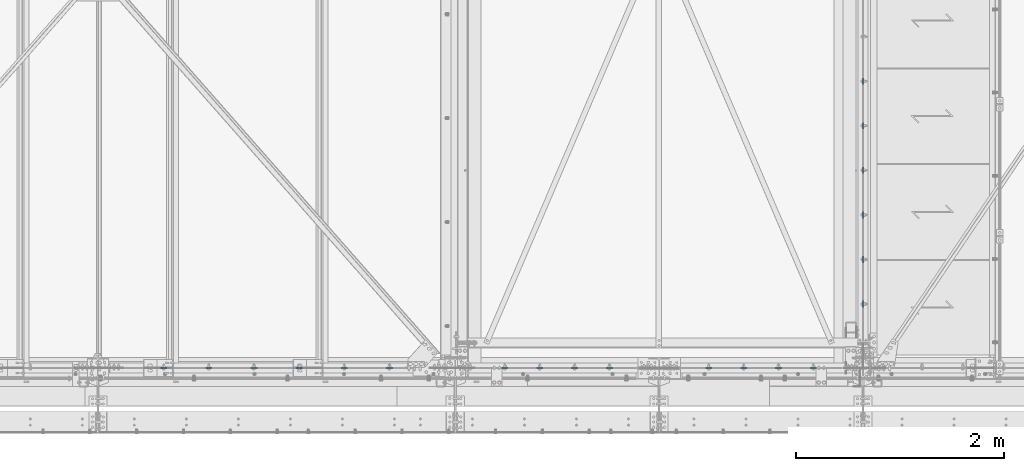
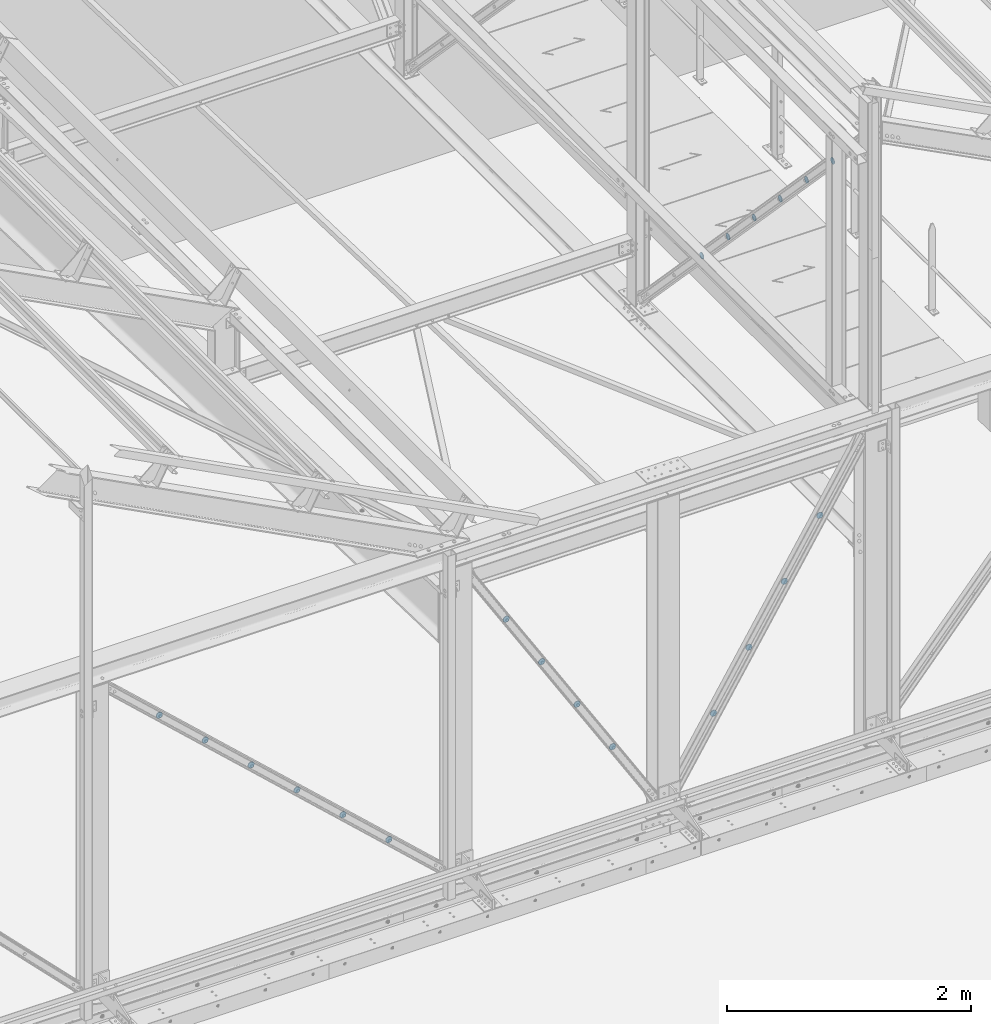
# One storey, part 120 of 362: 20 beams, 20 elements without a shape of their own.
"""IFC2X3 building model written with IfcOpenShell, lengths in millimetres."""

from ifc_helpers import new_model, si_unit, frame, frame_2d, origin_with_axes, place, context, subcontext, project, spatial, circle_curve, parameter, trimmed, segment, composite_curve, outline, extrude, material, type_object, element, aggregate, save


model = new_model("IFC2X3")

# Units and contexts
model_context = context("Model", 3, precision=1e-05, world=origin_with_axes())
body_context = subcontext(model_context, "Body", "Model", "MODEL_VIEW")
ifc_project = project(units=[si_unit("LENGTHUNIT", "METRE", prefix="MILLI"), si_unit("AREAUNIT", "SQUARE_METRE"), si_unit("VOLUMEUNIT", "CUBIC_METRE"), si_unit("MASSUNIT", "GRAM", prefix="KILO"), si_unit("TIMEUNIT", "SECOND"), si_unit("PLANEANGLEUNIT", "RADIAN"), si_unit("SOLIDANGLEUNIT", "STERADIAN"), si_unit("THERMODYNAMICTEMPERATUREUNIT", "DEGREE_CELSIUS"), si_unit("LUMINOUSINTENSITYUNIT", "LUMEN")], contexts=[model_context])

# Site, building, storey
site_placement = place(None, origin_with_axes())
site = spatial("IfcSite", under=ifc_project, at=site_placement, Name="Undefined", CompositionType="ELEMENT")
building_placement = place(site_placement, origin_with_axes())
building = spatial("IfcBuilding", under=site, at=building_placement, Name="Undefined", CompositionType="ELEMENT")
storey_placement = place(building_placement, origin_with_axes())
storey = spatial("IfcBuildingStorey", under=building, at=storey_placement, Name="Undefined", CompositionType="ELEMENT", Elevation=0.0)

# Assembly, beam
assembly_1_placement = place(storey_placement, origin_with_axes())
assembly_1 = element("IfcElementAssembly", 1, at=assembly_1_placement, inside=storey, AssemblyPlace="NOTDEFINED", PredefinedType="NOTDEFINED")
ifc_material = material(Name="Undefined/S235-E24")
beam_type = type_object("IfcBeamType", Name="TOLE8*60", PredefinedType="NOTDEFINED")
beam_1_placement = place(assembly_1_placement, frame((23022.8053225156, 0.0, 7618.21035510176), z_axis=(0.0, -1.0, 0.0), x_axis=(-1.0, 0.0, 0.0)))
beam_1 = element("IfcBeam", 2, at=beam_1_placement, type_object=beam_type, material=ifc_material, Name="PLAQUETTE", ObjectType="TOLE8*60", context=body_context, shape_type="SweptSolid", body=[
    extrude(outline(composite_curve([segment(trimmed(circle_curve(frame_2d((30.0, 30.0), x_axis=(-1.0, 0.0)), 30.0), [parameter(0.0)], [parameter(1.5707963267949)], True, "PARAMETER"), True, "CONTINUOUS"), segment(trimmed(circle_curve(frame_2d((30.0, 30.0), x_axis=(0.0, -1.0)), 30.0), [parameter(0.0)], [parameter(1.5707963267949)], True, "PARAMETER"), True, "CONTINUOUS"), segment(trimmed(circle_curve(frame_2d((30.0, 30.0), x_axis=(1.0, 0.0)), 30.0), [parameter(0.0)], [parameter(1.5707963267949)], True, "PARAMETER"), True, "CONTINUOUS"), segment(trimmed(circle_curve(frame_2d((30.0, 30.0), x_axis=(0.0, 1.0)), 30.0), [parameter(0.0)], [parameter(1.5707963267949)], True, "PARAMETER"), True, "CONTINUOUS")], self_intersect=True)), frame((0.0, 0.0, -4.0), z_axis=(0.0, 0.0, 1.0), x_axis=(1.0, 0.0, 0.0)), (0.0, 0.0, 1.0), 8.0),
])
aggregate(assembly_1, [beam_1])

assembly_2_placement = place(storey_placement, origin_with_axes())
assembly_2 = element("IfcElementAssembly", 3, at=assembly_2_placement, inside=storey, AssemblyPlace="NOTDEFINED", PredefinedType="NOTDEFINED")
beam_2_placement = place(assembly_2_placement, frame((22687.6017207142, 0.0, 7076.07011774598), z_axis=(0.0, -1.0, 0.0), x_axis=(-1.0, 0.0, 0.0)))
beam_2 = element("IfcBeam", 4, at=beam_2_placement, type_object=beam_type, material=ifc_material, Name="PLAQUETTE", ObjectType="TOLE8*60", context=body_context, shape_type="SweptSolid", body=[
    extrude(outline(composite_curve([segment(trimmed(circle_curve(frame_2d((30.0, 30.0), x_axis=(-1.0, 0.0)), 30.0), [parameter(0.0)], [parameter(1.5707963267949)], True, "PARAMETER"), True, "CONTINUOUS"), segment(trimmed(circle_curve(frame_2d((30.0, 30.0), x_axis=(0.0, -1.0)), 30.0), [parameter(0.0)], [parameter(1.5707963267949)], True, "PARAMETER"), True, "CONTINUOUS"), segment(trimmed(circle_curve(frame_2d((30.0, 30.0), x_axis=(1.0, 0.0)), 30.0), [parameter(0.0)], [parameter(1.5707963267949)], True, "PARAMETER"), True, "CONTINUOUS"), segment(trimmed(circle_curve(frame_2d((30.0, 30.0), x_axis=(0.0, 1.0)), 30.0), [parameter(0.0)], [parameter(1.5707963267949)], True, "PARAMETER"), True, "CONTINUOUS")], self_intersect=True)), frame((0.0, 0.0, -4.0), z_axis=(0.0, 0.0, 1.0), x_axis=(1.0, 0.0, 0.0)), (0.0, 0.0, 1.0), 8.0),
])
aggregate(assembly_2, [beam_2])

assembly_3_placement = place(storey_placement, origin_with_axes())
assembly_3 = element("IfcElementAssembly", 5, at=assembly_3_placement, inside=storey, AssemblyPlace="NOTDEFINED", PredefinedType="NOTDEFINED")
beam_3_placement = place(assembly_3_placement, frame((22352.3981189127, 0.0, 6533.9298803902), z_axis=(0.0, -1.0, 0.0), x_axis=(-1.0, 0.0, 0.0)))
beam_3 = element("IfcBeam", 6, at=beam_3_placement, type_object=beam_type, material=ifc_material, Name="PLAQUETTE", ObjectType="TOLE8*60", context=body_context, shape_type="SweptSolid", body=[
    extrude(outline(composite_curve([segment(trimmed(circle_curve(frame_2d((30.0, 30.0), x_axis=(-1.0, 0.0)), 30.0), [parameter(0.0)], [parameter(1.5707963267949)], True, "PARAMETER"), True, "CONTINUOUS"), segment(trimmed(circle_curve(frame_2d((30.0, 30.0), x_axis=(0.0, -1.0)), 30.0), [parameter(0.0)], [parameter(1.5707963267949)], True, "PARAMETER"), True, "CONTINUOUS"), segment(trimmed(circle_curve(frame_2d((30.0, 30.0), x_axis=(1.0, 0.0)), 30.0), [parameter(0.0)], [parameter(1.5707963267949)], True, "PARAMETER"), True, "CONTINUOUS"), segment(trimmed(circle_curve(frame_2d((30.0, 30.0), x_axis=(0.0, 1.0)), 30.0), [parameter(0.0)], [parameter(1.5707963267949)], True, "PARAMETER"), True, "CONTINUOUS")], self_intersect=True)), frame((0.0, 0.0, -4.0), z_axis=(0.0, 0.0, 1.0), x_axis=(1.0, 0.0, 0.0)), (0.0, 0.0, 1.0), 8.0),
])
aggregate(assembly_3, [beam_3])

assembly_4_placement = place(storey_placement, origin_with_axes())
assembly_4 = element("IfcElementAssembly", 7, at=assembly_4_placement, inside=storey, AssemblyPlace="NOTDEFINED", PredefinedType="NOTDEFINED")
beam_4_placement = place(assembly_4_placement, frame((22017.1945171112, 0.0, 5991.78964303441), z_axis=(0.0, -1.0, 0.0), x_axis=(-1.0, 0.0, 0.0)))
beam_4 = element("IfcBeam", 8, at=beam_4_placement, type_object=beam_type, material=ifc_material, Name="PLAQUETTE", ObjectType="TOLE8*60", context=body_context, shape_type="SweptSolid", body=[
    extrude(outline(composite_curve([segment(trimmed(circle_curve(frame_2d((30.0, 30.0), x_axis=(-1.0, 0.0)), 30.0), [parameter(0.0)], [parameter(1.5707963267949)], True, "PARAMETER"), True, "CONTINUOUS"), segment(trimmed(circle_curve(frame_2d((30.0, 30.0), x_axis=(0.0, -1.0)), 30.0), [parameter(0.0)], [parameter(1.5707963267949)], True, "PARAMETER"), True, "CONTINUOUS"), segment(trimmed(circle_curve(frame_2d((30.0, 30.0), x_axis=(1.0, 0.0)), 30.0), [parameter(0.0)], [parameter(1.5707963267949)], True, "PARAMETER"), True, "CONTINUOUS"), segment(trimmed(circle_curve(frame_2d((30.0, 30.0), x_axis=(0.0, 1.0)), 30.0), [parameter(0.0)], [parameter(1.5707963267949)], True, "PARAMETER"), True, "CONTINUOUS")], self_intersect=True)), frame((0.0, 0.0, -4.0), z_axis=(0.0, 0.0, 1.0), x_axis=(1.0, 0.0, 0.0)), (0.0, 0.0, 1.0), 8.0),
])
aggregate(assembly_4, [beam_4])

assembly_5_placement = place(storey_placement, origin_with_axes())
assembly_5 = element("IfcElementAssembly", 9, at=assembly_5_placement, inside=storey, AssemblyPlace="NOTDEFINED", PredefinedType="NOTDEFINED")
beam_5_placement = place(assembly_5_placement, frame((21062.8052344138, 0.0, 5991.7896507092), z_axis=(0.0, -1.0, 0.0), x_axis=(-1.0, 0.0, 0.0)))
beam_5 = element("IfcBeam", 10, at=beam_5_placement, type_object=beam_type, material=ifc_material, Name="PLAQUETTE", ObjectType="TOLE8*60", context=body_context, shape_type="SweptSolid", body=[
    extrude(outline(composite_curve([segment(trimmed(circle_curve(frame_2d((30.0, 30.0), x_axis=(-1.0, 0.0)), 30.0), [parameter(0.0)], [parameter(1.5707963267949)], True, "PARAMETER"), True, "CONTINUOUS"), segment(trimmed(circle_curve(frame_2d((30.0, 30.0), x_axis=(0.0, -1.0)), 30.0), [parameter(0.0)], [parameter(1.5707963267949)], True, "PARAMETER"), True, "CONTINUOUS"), segment(trimmed(circle_curve(frame_2d((30.0, 30.0), x_axis=(1.0, 0.0)), 30.0), [parameter(0.0)], [parameter(1.5707963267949)], True, "PARAMETER"), True, "CONTINUOUS"), segment(trimmed(circle_curve(frame_2d((30.0, 30.0), x_axis=(0.0, 1.0)), 30.0), [parameter(0.0)], [parameter(1.5707963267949)], True, "PARAMETER"), True, "CONTINUOUS")], self_intersect=True)), frame((0.0, 0.0, -4.0), z_axis=(0.0, 0.0, 1.0), x_axis=(1.0, 0.0, 0.0)), (0.0, 0.0, 1.0), 8.0),
])
aggregate(assembly_5, [beam_5])

assembly_6_placement = place(storey_placement, origin_with_axes())
assembly_6 = element("IfcElementAssembly", 11, at=assembly_6_placement, inside=storey, AssemblyPlace="NOTDEFINED", PredefinedType="NOTDEFINED")
beam_6_placement = place(assembly_6_placement, frame((20727.6016918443, 0.0, 6533.92988318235), z_axis=(0.0, -1.0, 0.0), x_axis=(-1.0, 0.0, 0.0)))
beam_6 = element("IfcBeam", 12, at=beam_6_placement, type_object=beam_type, material=ifc_material, Name="PLAQUETTE", ObjectType="TOLE8*60", context=body_context, shape_type="SweptSolid", body=[
    extrude(outline(composite_curve([segment(trimmed(circle_curve(frame_2d((30.0, 30.0), x_axis=(-1.0, 0.0)), 30.0), [parameter(0.0)], [parameter(1.5707963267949)], True, "PARAMETER"), True, "CONTINUOUS"), segment(trimmed(circle_curve(frame_2d((30.0, 30.0), x_axis=(0.0, -1.0)), 30.0), [parameter(0.0)], [parameter(1.5707963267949)], True, "PARAMETER"), True, "CONTINUOUS"), segment(trimmed(circle_curve(frame_2d((30.0, 30.0), x_axis=(1.0, 0.0)), 30.0), [parameter(0.0)], [parameter(1.5707963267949)], True, "PARAMETER"), True, "CONTINUOUS"), segment(trimmed(circle_curve(frame_2d((30.0, 30.0), x_axis=(0.0, 1.0)), 30.0), [parameter(0.0)], [parameter(1.5707963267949)], True, "PARAMETER"), True, "CONTINUOUS")], self_intersect=True)), frame((0.0, 0.0, -4.0), z_axis=(0.0, 0.0, 1.0), x_axis=(1.0, 0.0, 0.0)), (0.0, 0.0, 1.0), 8.0),
])
aggregate(assembly_6, [beam_6])

assembly_7_placement = place(storey_placement, origin_with_axes())
assembly_7 = element("IfcElementAssembly", 13, at=assembly_7_placement, inside=storey, AssemblyPlace="NOTDEFINED", PredefinedType="NOTDEFINED")
beam_7_placement = place(assembly_7_placement, frame((20392.3981492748, 0.0, 7076.0701156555), z_axis=(0.0, -1.0, 0.0), x_axis=(-1.0, 0.0, 0.0)))
beam_7 = element("IfcBeam", 14, at=beam_7_placement, type_object=beam_type, material=ifc_material, Name="PLAQUETTE", ObjectType="TOLE8*60", context=body_context, shape_type="SweptSolid", body=[
    extrude(outline(composite_curve([segment(trimmed(circle_curve(frame_2d((30.0, 30.0), x_axis=(-1.0, 0.0)), 30.0), [parameter(0.0)], [parameter(1.5707963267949)], True, "PARAMETER"), True, "CONTINUOUS"), segment(trimmed(circle_curve(frame_2d((30.0, 30.0), x_axis=(0.0, -1.0)), 30.0), [parameter(0.0)], [parameter(1.5707963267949)], True, "PARAMETER"), True, "CONTINUOUS"), segment(trimmed(circle_curve(frame_2d((30.0, 30.0), x_axis=(1.0, 0.0)), 30.0), [parameter(0.0)], [parameter(1.5707963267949)], True, "PARAMETER"), True, "CONTINUOUS"), segment(trimmed(circle_curve(frame_2d((30.0, 30.0), x_axis=(0.0, 1.0)), 30.0), [parameter(0.0)], [parameter(1.5707963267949)], True, "PARAMETER"), True, "CONTINUOUS")], self_intersect=True)), frame((0.0, 0.0, -4.0), z_axis=(0.0, 0.0, 1.0), x_axis=(1.0, 0.0, 0.0)), (0.0, 0.0, 1.0), 8.0),
])
aggregate(assembly_7, [beam_7])

assembly_8_placement = place(storey_placement, origin_with_axes())
assembly_8 = element("IfcElementAssembly", 15, at=assembly_8_placement, inside=storey, AssemblyPlace="NOTDEFINED", PredefinedType="NOTDEFINED")
beam_8_placement = place(assembly_8_placement, frame((20057.1946067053, 0.0, 7618.21034812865), z_axis=(0.0, -1.0, 0.0), x_axis=(-1.0, 0.0, 0.0)))
beam_8 = element("IfcBeam", 16, at=beam_8_placement, type_object=beam_type, material=ifc_material, Name="PLAQUETTE", ObjectType="TOLE8*60", context=body_context, shape_type="SweptSolid", body=[
    extrude(outline(composite_curve([segment(trimmed(circle_curve(frame_2d((30.0, 30.0), x_axis=(-1.0, 0.0)), 30.0), [parameter(0.0)], [parameter(1.5707963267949)], True, "PARAMETER"), True, "CONTINUOUS"), segment(trimmed(circle_curve(frame_2d((30.0, 30.0), x_axis=(0.0, -1.0)), 30.0), [parameter(0.0)], [parameter(1.5707963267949)], True, "PARAMETER"), True, "CONTINUOUS"), segment(trimmed(circle_curve(frame_2d((30.0, 30.0), x_axis=(1.0, 0.0)), 30.0), [parameter(0.0)], [parameter(1.5707963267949)], True, "PARAMETER"), True, "CONTINUOUS"), segment(trimmed(circle_curve(frame_2d((30.0, 30.0), x_axis=(0.0, 1.0)), 30.0), [parameter(0.0)], [parameter(1.5707963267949)], True, "PARAMETER"), True, "CONTINUOUS")], self_intersect=True)), frame((0.0, 0.0, -4.0), z_axis=(0.0, 0.0, 1.0), x_axis=(1.0, 0.0, 0.0)), (0.0, 0.0, 1.0), 8.0),
])
aggregate(assembly_8, [beam_8])

assembly_9_placement = place(storey_placement, origin_with_axes())
assembly_9 = element("IfcElementAssembly", 17, at=assembly_9_placement, inside=storey, AssemblyPlace="NOTDEFINED", PredefinedType="NOTDEFINED")
beam_9_placement = place(assembly_9_placement, frame((18947.5577549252, 0.0, 5803.65162689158), z_axis=(0.0, -1.0, 0.0), x_axis=(-1.0, 0.0, 0.0)))
beam_9 = element("IfcBeam", 18, at=beam_9_placement, type_object=beam_type, material=ifc_material, Name="PLAQUETTE", ObjectType="TOLE8*60", context=body_context, shape_type="SweptSolid", body=[
    extrude(outline(composite_curve([segment(trimmed(circle_curve(frame_2d((30.0, 30.0), x_axis=(-1.0, 0.0)), 30.0), [parameter(0.0)], [parameter(1.5707963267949)], True, "PARAMETER"), True, "CONTINUOUS"), segment(trimmed(circle_curve(frame_2d((30.0, 30.0), x_axis=(0.0, -1.0)), 30.0), [parameter(0.0)], [parameter(1.5707963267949)], True, "PARAMETER"), True, "CONTINUOUS"), segment(trimmed(circle_curve(frame_2d((30.0, 30.0), x_axis=(1.0, 0.0)), 30.0), [parameter(0.0)], [parameter(1.5707963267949)], True, "PARAMETER"), True, "CONTINUOUS"), segment(trimmed(circle_curve(frame_2d((30.0, 30.0), x_axis=(0.0, 1.0)), 30.0), [parameter(0.0)], [parameter(1.5707963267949)], True, "PARAMETER"), True, "CONTINUOUS")], self_intersect=True)), frame((0.0, 0.0, -4.0), z_axis=(0.0, 0.0, 1.0), x_axis=(1.0, 0.0, 0.0)), (0.0, 0.0, 1.0), 8.0),
])
aggregate(assembly_9, [beam_9])

assembly_10_placement = place(storey_placement, origin_with_axes())
assembly_10 = element("IfcElementAssembly", 19, at=assembly_10_placement, inside=storey, AssemblyPlace="NOTDEFINED", PredefinedType="NOTDEFINED")
beam_10_placement = place(assembly_10_placement, frame((18513.5346219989, 0.0, 6204.19097699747), z_axis=(0.0, -1.0, 0.0), x_axis=(-1.0, 0.0, 0.0)))
beam_10 = element("IfcBeam", 20, at=beam_10_placement, type_object=beam_type, material=ifc_material, Name="PLAQUETTE", ObjectType="TOLE8*60", context=body_context, shape_type="SweptSolid", body=[
    extrude(outline(composite_curve([segment(trimmed(circle_curve(frame_2d((30.0, 30.0), x_axis=(-1.0, 0.0)), 30.0), [parameter(0.0)], [parameter(1.5707963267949)], True, "PARAMETER"), True, "CONTINUOUS"), segment(trimmed(circle_curve(frame_2d((30.0, 30.0), x_axis=(0.0, -1.0)), 30.0), [parameter(0.0)], [parameter(1.5707963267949)], True, "PARAMETER"), True, "CONTINUOUS"), segment(trimmed(circle_curve(frame_2d((30.0, 30.0), x_axis=(1.0, 0.0)), 30.0), [parameter(0.0)], [parameter(1.5707963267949)], True, "PARAMETER"), True, "CONTINUOUS"), segment(trimmed(circle_curve(frame_2d((30.0, 30.0), x_axis=(0.0, 1.0)), 30.0), [parameter(0.0)], [parameter(1.5707963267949)], True, "PARAMETER"), True, "CONTINUOUS")], self_intersect=True)), frame((0.0, 0.0, -4.0), z_axis=(0.0, 0.0, 1.0), x_axis=(1.0, 0.0, 0.0)), (0.0, 0.0, 1.0), 8.0),
])
aggregate(assembly_10, [beam_10])

assembly_11_placement = place(storey_placement, origin_with_axes())
assembly_11 = element("IfcElementAssembly", 21, at=assembly_11_placement, inside=storey, AssemblyPlace="NOTDEFINED", PredefinedType="NOTDEFINED")
beam_11_placement = place(assembly_11_placement, frame((18079.5114890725, 0.0, 6604.73032710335), z_axis=(0.0, -1.0, 0.0), x_axis=(-1.0, 0.0, 0.0)))
beam_11 = element("IfcBeam", 22, at=beam_11_placement, type_object=beam_type, material=ifc_material, Name="PLAQUETTE", ObjectType="TOLE8*60", context=body_context, shape_type="SweptSolid", body=[
    extrude(outline(composite_curve([segment(trimmed(circle_curve(frame_2d((30.0, 30.0), x_axis=(-1.0, 0.0)), 30.0), [parameter(0.0)], [parameter(1.5707963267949)], True, "PARAMETER"), True, "CONTINUOUS"), segment(trimmed(circle_curve(frame_2d((30.0, 30.0), x_axis=(0.0, -1.0)), 30.0), [parameter(0.0)], [parameter(1.5707963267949)], True, "PARAMETER"), True, "CONTINUOUS"), segment(trimmed(circle_curve(frame_2d((30.0, 30.0), x_axis=(1.0, 0.0)), 30.0), [parameter(0.0)], [parameter(1.5707963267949)], True, "PARAMETER"), True, "CONTINUOUS"), segment(trimmed(circle_curve(frame_2d((30.0, 30.0), x_axis=(0.0, 1.0)), 30.0), [parameter(0.0)], [parameter(1.5707963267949)], True, "PARAMETER"), True, "CONTINUOUS")], self_intersect=True)), frame((0.0, 0.0, -4.0), z_axis=(0.0, 0.0, 1.0), x_axis=(1.0, 0.0, 0.0)), (0.0, 0.0, 1.0), 8.0),
])
aggregate(assembly_11, [beam_11])

assembly_12_placement = place(storey_placement, origin_with_axes())
assembly_12 = element("IfcElementAssembly", 23, at=assembly_12_placement, inside=storey, AssemblyPlace="NOTDEFINED", PredefinedType="NOTDEFINED")
beam_12_placement = place(assembly_12_placement, frame((17645.4883561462, 0.0, 7005.26967720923), z_axis=(0.0, -1.0, 0.0), x_axis=(-1.0, 0.0, 0.0)))
beam_12 = element("IfcBeam", 24, at=beam_12_placement, type_object=beam_type, material=ifc_material, Name="PLAQUETTE", ObjectType="TOLE8*60", context=body_context, shape_type="SweptSolid", body=[
    extrude(outline(composite_curve([segment(trimmed(circle_curve(frame_2d((30.0, 30.0), x_axis=(-1.0, 0.0)), 30.0), [parameter(0.0)], [parameter(1.5707963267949)], True, "PARAMETER"), True, "CONTINUOUS"), segment(trimmed(circle_curve(frame_2d((30.0, 30.0), x_axis=(0.0, -1.0)), 30.0), [parameter(0.0)], [parameter(1.5707963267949)], True, "PARAMETER"), True, "CONTINUOUS"), segment(trimmed(circle_curve(frame_2d((30.0, 30.0), x_axis=(1.0, 0.0)), 30.0), [parameter(0.0)], [parameter(1.5707963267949)], True, "PARAMETER"), True, "CONTINUOUS"), segment(trimmed(circle_curve(frame_2d((30.0, 30.0), x_axis=(0.0, 1.0)), 30.0), [parameter(0.0)], [parameter(1.5707963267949)], True, "PARAMETER"), True, "CONTINUOUS")], self_intersect=True)), frame((0.0, 0.0, -4.0), z_axis=(0.0, 0.0, 1.0), x_axis=(1.0, 0.0, 0.0)), (0.0, 0.0, 1.0), 8.0),
])
aggregate(assembly_12, [beam_12])

assembly_13_placement = place(storey_placement, origin_with_axes())
assembly_13 = element("IfcElementAssembly", 25, at=assembly_13_placement, inside=storey, AssemblyPlace="NOTDEFINED", PredefinedType="NOTDEFINED")
beam_13_placement = place(assembly_13_placement, frame((17211.4652232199, 0.0, 7405.80902731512), z_axis=(0.0, -1.0, 0.0), x_axis=(-1.0, 0.0, 0.0)))
beam_13 = element("IfcBeam", 26, at=beam_13_placement, type_object=beam_type, material=ifc_material, Name="PLAQUETTE", ObjectType="TOLE8*60", context=body_context, shape_type="SweptSolid", body=[
    extrude(outline(composite_curve([segment(trimmed(circle_curve(frame_2d((30.0, 30.0), x_axis=(-1.0, 0.0)), 30.0), [parameter(0.0)], [parameter(1.5707963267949)], True, "PARAMETER"), True, "CONTINUOUS"), segment(trimmed(circle_curve(frame_2d((30.0, 30.0), x_axis=(0.0, -1.0)), 30.0), [parameter(0.0)], [parameter(1.5707963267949)], True, "PARAMETER"), True, "CONTINUOUS"), segment(trimmed(circle_curve(frame_2d((30.0, 30.0), x_axis=(1.0, 0.0)), 30.0), [parameter(0.0)], [parameter(1.5707963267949)], True, "PARAMETER"), True, "CONTINUOUS"), segment(trimmed(circle_curve(frame_2d((30.0, 30.0), x_axis=(0.0, 1.0)), 30.0), [parameter(0.0)], [parameter(1.5707963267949)], True, "PARAMETER"), True, "CONTINUOUS")], self_intersect=True)), frame((0.0, 0.0, -4.0), z_axis=(0.0, 0.0, 1.0), x_axis=(1.0, 0.0, 0.0)), (0.0, 0.0, 1.0), 8.0),
])
aggregate(assembly_13, [beam_13])

assembly_14_placement = place(storey_placement, origin_with_axes())
assembly_14 = element("IfcElementAssembly", 27, at=assembly_14_placement, inside=storey, AssemblyPlace="NOTDEFINED", PredefinedType="NOTDEFINED")
beam_14_placement = place(assembly_14_placement, frame((16777.4420902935, 0.0, 7806.348377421), z_axis=(0.0, -1.0, 0.0), x_axis=(-1.0, 0.0, 0.0)))
beam_14 = element("IfcBeam", 28, at=beam_14_placement, type_object=beam_type, material=ifc_material, Name="PLAQUETTE", ObjectType="TOLE8*60", context=body_context, shape_type="SweptSolid", body=[
    extrude(outline(composite_curve([segment(trimmed(circle_curve(frame_2d((30.0, 30.0), x_axis=(-1.0, 0.0)), 30.0), [parameter(0.0)], [parameter(1.5707963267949)], True, "PARAMETER"), True, "CONTINUOUS"), segment(trimmed(circle_curve(frame_2d((30.0, 30.0), x_axis=(0.0, -1.0)), 30.0), [parameter(0.0)], [parameter(1.5707963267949)], True, "PARAMETER"), True, "CONTINUOUS"), segment(trimmed(circle_curve(frame_2d((30.0, 30.0), x_axis=(1.0, 0.0)), 30.0), [parameter(0.0)], [parameter(1.5707963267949)], True, "PARAMETER"), True, "CONTINUOUS"), segment(trimmed(circle_curve(frame_2d((30.0, 30.0), x_axis=(0.0, 1.0)), 30.0), [parameter(0.0)], [parameter(1.5707963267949)], True, "PARAMETER"), True, "CONTINUOUS")], self_intersect=True)), frame((0.0, 0.0, -4.0), z_axis=(0.0, 0.0, 1.0), x_axis=(1.0, 0.0, 0.0)), (0.0, 0.0, 1.0), 8.0),
])
aggregate(assembly_14, [beam_14])

assembly_15_placement = place(storey_placement, origin_with_axes())
assembly_15 = element("IfcElementAssembly", 29, at=assembly_15_placement, inside=storey, AssemblyPlace="NOTDEFINED", PredefinedType="NOTDEFINED")
beam_15_placement = place(assembly_15_placement, frame((23470.0, 584.733331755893, 10621.1819389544), z_axis=(-1.0, 0.0, 0.0), x_axis=(0.0, 1.0, 0.0)))
beam_15 = element("IfcBeam", 30, at=beam_15_placement, type_object=beam_type, material=ifc_material, Name="PLAQUETTE", ObjectType="TOLE8*60", context=body_context, shape_type="SweptSolid", body=[
    extrude(outline(composite_curve([segment(trimmed(circle_curve(frame_2d((30.0, 30.0), x_axis=(-1.0, 0.0)), 30.0), [parameter(0.0)], [parameter(1.5707963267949)], True, "PARAMETER"), True, "CONTINUOUS"), segment(trimmed(circle_curve(frame_2d((30.0, 30.0), x_axis=(0.0, -1.0)), 30.0), [parameter(0.0)], [parameter(1.5707963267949)], True, "PARAMETER"), True, "CONTINUOUS"), segment(trimmed(circle_curve(frame_2d((30.0, 30.0), x_axis=(1.0, 0.0)), 30.0), [parameter(0.0)], [parameter(1.5707963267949)], True, "PARAMETER"), True, "CONTINUOUS"), segment(trimmed(circle_curve(frame_2d((30.0, 30.0), x_axis=(0.0, 1.0)), 30.0), [parameter(0.0)], [parameter(1.5707963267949)], True, "PARAMETER"), True, "CONTINUOUS")], self_intersect=True)), frame((0.0, 0.0, -4.0), z_axis=(0.0, 0.0, 1.0), x_axis=(1.0, 0.0, 0.0)), (0.0, 0.0, 1.0), 8.0),
])
aggregate(assembly_15, [beam_15])

assembly_16_placement = place(storey_placement, origin_with_axes())
assembly_16 = element("IfcElementAssembly", 31, at=assembly_16_placement, inside=storey, AssemblyPlace="NOTDEFINED", PredefinedType="NOTDEFINED")
beam_16_placement = place(assembly_16_placement, frame((23470.0, 1013.15647512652, 10171.7879594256), z_axis=(-1.0, 0.0, 0.0), x_axis=(0.0, 1.0, 0.0)))
beam_16 = element("IfcBeam", 32, at=beam_16_placement, type_object=beam_type, material=ifc_material, Name="PLAQUETTE", ObjectType="TOLE8*60", context=body_context, shape_type="SweptSolid", body=[
    extrude(outline(composite_curve([segment(trimmed(circle_curve(frame_2d((30.0, 30.0), x_axis=(-1.0, 0.0)), 30.0), [parameter(0.0)], [parameter(1.5707963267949)], True, "PARAMETER"), True, "CONTINUOUS"), segment(trimmed(circle_curve(frame_2d((30.0, 30.0), x_axis=(0.0, -1.0)), 30.0), [parameter(0.0)], [parameter(1.5707963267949)], True, "PARAMETER"), True, "CONTINUOUS"), segment(trimmed(circle_curve(frame_2d((30.0, 30.0), x_axis=(1.0, 0.0)), 30.0), [parameter(0.0)], [parameter(1.5707963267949)], True, "PARAMETER"), True, "CONTINUOUS"), segment(trimmed(circle_curve(frame_2d((30.0, 30.0), x_axis=(0.0, 1.0)), 30.0), [parameter(0.0)], [parameter(1.5707963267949)], True, "PARAMETER"), True, "CONTINUOUS")], self_intersect=True)), frame((0.0, 0.0, -4.0), z_axis=(0.0, 0.0, 1.0), x_axis=(1.0, 0.0, 0.0)), (0.0, 0.0, 1.0), 8.0),
])
aggregate(assembly_16, [beam_16])

assembly_17_placement = place(storey_placement, origin_with_axes())
assembly_17 = element("IfcElementAssembly", 33, at=assembly_17_placement, inside=storey, AssemblyPlace="NOTDEFINED", PredefinedType="NOTDEFINED")
beam_17_placement = place(assembly_17_placement, frame((23470.0, 1441.57961849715, 9722.39397989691), z_axis=(-1.0, 0.0, 0.0), x_axis=(0.0, 1.0, 0.0)))
beam_17 = element("IfcBeam", 34, at=beam_17_placement, type_object=beam_type, material=ifc_material, Name="PLAQUETTE", ObjectType="TOLE8*60", context=body_context, shape_type="SweptSolid", body=[
    extrude(outline(composite_curve([segment(trimmed(circle_curve(frame_2d((30.0, 30.0), x_axis=(-1.0, 0.0)), 30.0), [parameter(0.0)], [parameter(1.5707963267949)], True, "PARAMETER"), True, "CONTINUOUS"), segment(trimmed(circle_curve(frame_2d((30.0, 30.0), x_axis=(0.0, -1.0)), 30.0), [parameter(0.0)], [parameter(1.5707963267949)], True, "PARAMETER"), True, "CONTINUOUS"), segment(trimmed(circle_curve(frame_2d((30.0, 30.0), x_axis=(1.0, 0.0)), 30.0), [parameter(0.0)], [parameter(1.5707963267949)], True, "PARAMETER"), True, "CONTINUOUS"), segment(trimmed(circle_curve(frame_2d((30.0, 30.0), x_axis=(0.0, 1.0)), 30.0), [parameter(0.0)], [parameter(1.5707963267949)], True, "PARAMETER"), True, "CONTINUOUS")], self_intersect=True)), frame((0.0, 0.0, -4.0), z_axis=(0.0, 0.0, 1.0), x_axis=(1.0, 0.0, 0.0)), (0.0, 0.0, 1.0), 8.0),
])
aggregate(assembly_17, [beam_17])

assembly_18_placement = place(storey_placement, origin_with_axes())
assembly_18 = element("IfcElementAssembly", 35, at=assembly_18_placement, inside=storey, AssemblyPlace="NOTDEFINED", PredefinedType="NOTDEFINED")
beam_18_placement = place(assembly_18_placement, frame((23470.0, 1870.00276186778, 9273.00000036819), z_axis=(-1.0, 0.0, 0.0), x_axis=(0.0, 1.0, 0.0)))
beam_18 = element("IfcBeam", 36, at=beam_18_placement, type_object=beam_type, material=ifc_material, Name="PLAQUETTE", ObjectType="TOLE8*60", context=body_context, shape_type="SweptSolid", body=[
    extrude(outline(composite_curve([segment(trimmed(circle_curve(frame_2d((30.0, 30.0), x_axis=(-1.0, 0.0)), 30.0), [parameter(0.0)], [parameter(1.5707963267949)], True, "PARAMETER"), True, "CONTINUOUS"), segment(trimmed(circle_curve(frame_2d((30.0, 30.0), x_axis=(0.0, -1.0)), 30.0), [parameter(0.0)], [parameter(1.5707963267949)], True, "PARAMETER"), True, "CONTINUOUS"), segment(trimmed(circle_curve(frame_2d((30.0, 30.0), x_axis=(1.0, 0.0)), 30.0), [parameter(0.0)], [parameter(1.5707963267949)], True, "PARAMETER"), True, "CONTINUOUS"), segment(trimmed(circle_curve(frame_2d((30.0, 30.0), x_axis=(0.0, 1.0)), 30.0), [parameter(0.0)], [parameter(1.5707963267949)], True, "PARAMETER"), True, "CONTINUOUS")], self_intersect=True)), frame((0.0, 0.0, -4.0), z_axis=(0.0, 0.0, 1.0), x_axis=(1.0, 0.0, 0.0)), (0.0, 0.0, 1.0), 8.0),
])
aggregate(assembly_18, [beam_18])

assembly_19_placement = place(storey_placement, origin_with_axes())
assembly_19 = element("IfcElementAssembly", 37, at=assembly_19_placement, inside=storey, AssemblyPlace="NOTDEFINED", PredefinedType="NOTDEFINED")
beam_19_placement = place(assembly_19_placement, frame((23470.0, 2298.42590523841, 8823.60602083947), z_axis=(-1.0, 0.0, 0.0), x_axis=(0.0, 1.0, 0.0)))
beam_19 = element("IfcBeam", 38, at=beam_19_placement, type_object=beam_type, material=ifc_material, Name="PLAQUETTE", ObjectType="TOLE8*60", context=body_context, shape_type="SweptSolid", body=[
    extrude(outline(composite_curve([segment(trimmed(circle_curve(frame_2d((30.0, 30.0), x_axis=(-1.0, 0.0)), 30.0), [parameter(0.0)], [parameter(1.5707963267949)], True, "PARAMETER"), True, "CONTINUOUS"), segment(trimmed(circle_curve(frame_2d((30.0, 30.0), x_axis=(0.0, -1.0)), 30.0), [parameter(0.0)], [parameter(1.5707963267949)], True, "PARAMETER"), True, "CONTINUOUS"), segment(trimmed(circle_curve(frame_2d((30.0, 30.0), x_axis=(1.0, 0.0)), 30.0), [parameter(0.0)], [parameter(1.5707963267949)], True, "PARAMETER"), True, "CONTINUOUS"), segment(trimmed(circle_curve(frame_2d((30.0, 30.0), x_axis=(0.0, 1.0)), 30.0), [parameter(0.0)], [parameter(1.5707963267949)], True, "PARAMETER"), True, "CONTINUOUS")], self_intersect=True)), frame((0.0, 0.0, -4.0), z_axis=(0.0, 0.0, 1.0), x_axis=(1.0, 0.0, 0.0)), (0.0, 0.0, 1.0), 8.0),
])
aggregate(assembly_19, [beam_19])

assembly_20_placement = place(storey_placement, origin_with_axes())
assembly_20 = element("IfcElementAssembly", 39, at=assembly_20_placement, inside=storey, AssemblyPlace="NOTDEFINED", PredefinedType="NOTDEFINED")
beam_20_placement = place(assembly_20_placement, frame((23470.0, 2726.84904860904, 8374.21204131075), z_axis=(-1.0, 0.0, 0.0), x_axis=(0.0, 1.0, 0.0)))
beam_20 = element("IfcBeam", 40, at=beam_20_placement, type_object=beam_type, material=ifc_material, Name="PLAQUETTE", ObjectType="TOLE8*60", context=body_context, shape_type="SweptSolid", body=[
    extrude(outline(composite_curve([segment(trimmed(circle_curve(frame_2d((30.0, 30.0), x_axis=(-1.0, 0.0)), 30.0), [parameter(0.0)], [parameter(1.5707963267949)], True, "PARAMETER"), True, "CONTINUOUS"), segment(trimmed(circle_curve(frame_2d((30.0, 30.0), x_axis=(0.0, -1.0)), 30.0), [parameter(0.0)], [parameter(1.5707963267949)], True, "PARAMETER"), True, "CONTINUOUS"), segment(trimmed(circle_curve(frame_2d((30.0, 30.0), x_axis=(1.0, 0.0)), 30.0), [parameter(0.0)], [parameter(1.5707963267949)], True, "PARAMETER"), True, "CONTINUOUS"), segment(trimmed(circle_curve(frame_2d((30.0, 30.0), x_axis=(0.0, 1.0)), 30.0), [parameter(0.0)], [parameter(1.5707963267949)], True, "PARAMETER"), True, "CONTINUOUS")], self_intersect=True)), frame((0.0, 0.0, -4.0), z_axis=(0.0, 0.0, 1.0), x_axis=(1.0, 0.0, 0.0)), (0.0, 0.0, 1.0), 8.0),
])
aggregate(assembly_20, [beam_20])

save(model, "model.ifc")
